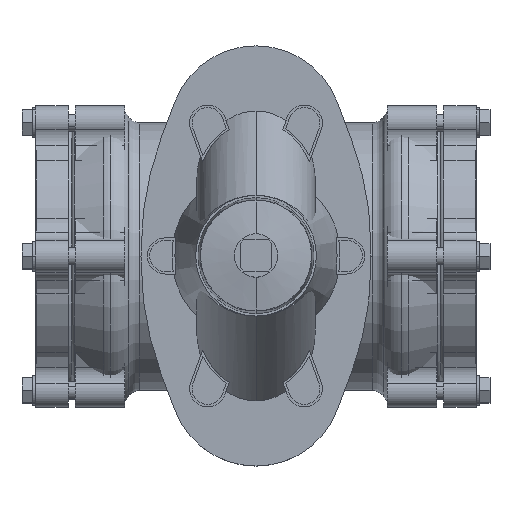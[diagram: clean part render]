
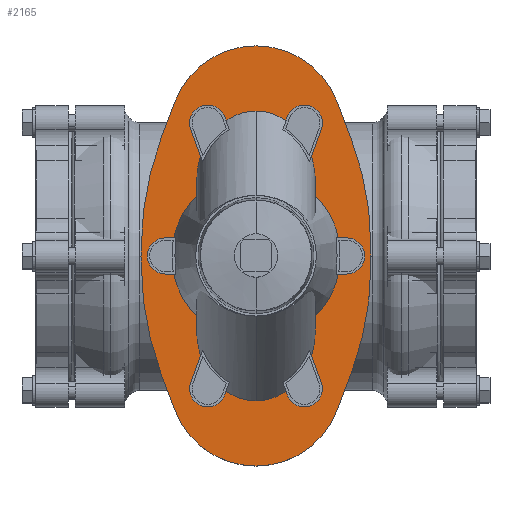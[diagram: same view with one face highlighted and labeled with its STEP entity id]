
A CAD part, top view. The second image highlights one B-rep face of the part: STEP entity #2165.
In plain terms, the highlighted planar face has unit normal (0, 0, 1).
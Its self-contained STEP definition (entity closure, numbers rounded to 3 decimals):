
#2165=ADVANCED_FACE('',(#4573),#4574,.T.);
#4573=FACE_OUTER_BOUND('',#8044,.T.);
#4574=PLANE('',#8045);
#8044=EDGE_LOOP('',(#11193,#11194,#11195,#11196,#11197,#11198,#11199,#11200,#11201,#11202,#11203,#11204,#11205,#11206));
#8045=AXIS2_PLACEMENT_3D('',#11207,#11208,#11209);
#11193=ORIENTED_EDGE('',*,*,#18563,.F.);
#11194=ORIENTED_EDGE('',*,*,#18564,.F.);
#11195=ORIENTED_EDGE('',*,*,#18565,.F.);
#11196=ORIENTED_EDGE('',*,*,#18566,.F.);
#11197=ORIENTED_EDGE('',*,*,#18567,.F.);
#11198=ORIENTED_EDGE('',*,*,#18568,.F.);
#11199=ORIENTED_EDGE('',*,*,#18569,.F.);
#11200=ORIENTED_EDGE('',*,*,#18570,.F.);
#11201=ORIENTED_EDGE('',*,*,#18571,.F.);
#11202=ORIENTED_EDGE('',*,*,#18572,.F.);
#11203=ORIENTED_EDGE('',*,*,#18573,.F.);
#11204=ORIENTED_EDGE('',*,*,#18574,.F.);
#11205=ORIENTED_EDGE('',*,*,#18575,.F.);
#11206=ORIENTED_EDGE('',*,*,#18576,.F.);
#11207=CARTESIAN_POINT('',(52.551,0.001,281.0));
#11208=DIRECTION('',(0.0,0.0,1.0));
#11209=DIRECTION('',(1.0,0.0,0.0));
#18563=EDGE_CURVE('',#21750,#21751,#21752,.T.);
#18564=EDGE_CURVE('',#21753,#21750,#21754,.T.);
#18565=EDGE_CURVE('',#21755,#21753,#21756,.T.);
#18566=EDGE_CURVE('',#21757,#21755,#21758,.T.);
#18567=EDGE_CURVE('',#21759,#21757,#21760,.T.);
#18568=EDGE_CURVE('',#21761,#21759,#21762,.T.);
#18569=EDGE_CURVE('',#21763,#21761,#21764,.T.);
#18570=EDGE_CURVE('',#21765,#21763,#21766,.T.);
#18571=EDGE_CURVE('',#21767,#21765,#21768,.T.);
#18572=EDGE_CURVE('',#21769,#21767,#21770,.T.);
#18573=EDGE_CURVE('',#21771,#21769,#21772,.T.);
#18574=EDGE_CURVE('',#21773,#21771,#21774,.T.);
#18575=EDGE_CURVE('',#21775,#21773,#21776,.T.);
#18576=EDGE_CURVE('',#21751,#21775,#21777,.T.);
#21750=VERTEX_POINT('',#26156);
#21751=VERTEX_POINT('',#26157);
#21752=LINE('',#26158,#26159);
#21753=VERTEX_POINT('',#26160);
#21754=CIRCLE('',#26161,71.99);
#21755=VERTEX_POINT('',#26162);
#21756=LINE('',#26163,#26164);
#21757=VERTEX_POINT('',#26165);
#21758=CIRCLE('',#26166,250.48);
#21759=VERTEX_POINT('',#26167);
#21760=CIRCLE('',#26168,250.48);
#21761=VERTEX_POINT('',#26169);
#21762=CIRCLE('',#26170,250.48);
#21763=VERTEX_POINT('',#26171);
#21764=CIRCLE('',#26172,250.48);
#21765=VERTEX_POINT('',#26173);
#21766=LINE('',#26174,#26175);
#21767=VERTEX_POINT('',#26176);
#21768=CIRCLE('',#26177,71.99);
#21769=VERTEX_POINT('',#26178);
#21770=LINE('',#26179,#26180);
#21771=VERTEX_POINT('',#26181);
#21772=CIRCLE('',#26182,261.98);
#21773=VERTEX_POINT('',#26183);
#21774=CIRCLE('',#26184,261.98);
#21775=VERTEX_POINT('',#26185);
#21776=CIRCLE('',#26186,261.98);
#21777=CIRCLE('',#26187,261.98);
#26156=CARTESIAN_POINT('',(-14.854,-127.417,281.0));
#26157=CARTESIAN_POINT('',(-25.708,-98.634,281.0));
#26158=CARTESIAN_POINT('',(-25.708,-98.634,281.0));
#26159=VECTOR('',#31329,1.0);
#26160=CARTESIAN_POINT('',(119.873,-127.395,281.0));
#26161=AXIS2_PLACEMENT_3D('',#31330,#31331,#31332);
#26162=CARTESIAN_POINT('',(131.541,-96.424,281.0));
#26163=CARTESIAN_POINT('',(119.873,-127.395,281.0));
#26164=VECTOR('',#31333,1.0);
#26165=CARTESIAN_POINT('',(147.624,-8.117,281.0));
#26166=AXIS2_PLACEMENT_3D('',#31334,#31335,#31336);
#26167=CARTESIAN_POINT('',(147.497,-0.153,281.0));
#26168=AXIS2_PLACEMENT_3D('',#31337,#31338,#31339);
#26169=CARTESIAN_POINT('',(147.634,8.121,281.0));
#26170=AXIS2_PLACEMENT_3D('',#31340,#31341,#31342);
#26171=CARTESIAN_POINT('',(131.522,96.504,281.0));
#26172=AXIS2_PLACEMENT_3D('',#31343,#31344,#31345);
#26173=CARTESIAN_POINT('',(119.865,127.417,281.0));
#26174=CARTESIAN_POINT('',(131.522,96.504,281.0));
#26175=VECTOR('',#31346,1.);
#26176=CARTESIAN_POINT('',(-14.854,127.417,281.0));
#26177=AXIS2_PLACEMENT_3D('',#31347,#31348,#31349);
#26178=CARTESIAN_POINT('',(-25.708,98.634,281.0));
#26179=CARTESIAN_POINT('',(-14.854,127.417,281.0));
#26180=VECTOR('',#31350,1.0);
#26181=CARTESIAN_POINT('',(-42.56,6.191,281.0));
#26182=AXIS2_PLACEMENT_3D('',#31351,#31352,#31353);
#26183=CARTESIAN_POINT('',(-42.487,0.,281.0));
#26184=AXIS2_PLACEMENT_3D('',#31354,#31355,#31356);
#26185=CARTESIAN_POINT('',(-42.56,-6.191,281.0));
#26186=AXIS2_PLACEMENT_3D('',#31357,#31358,#31359);
#26187=AXIS2_PLACEMENT_3D('',#31360,#31361,#31362);
#31329=DIRECTION('',(-0.353,0.936,0.0));
#31330=CARTESIAN_POINT('',(52.505,-102.014,281.0));
#31331=DIRECTION('',(0.0,0.0,-1.0));
#31332=DIRECTION('',(1.0,0.0,0.0));
#31333=DIRECTION('',(-0.353,-0.936,-0.0));
#31334=CARTESIAN_POINT('',(-102.856,-8.117,281.0));
#31335=DIRECTION('',(0.0,0.0,-1.0));
#31336=DIRECTION('',(1.0,0.0,0.0));
#31337=CARTESIAN_POINT('',(-102.856,-8.117,281.0));
#31338=DIRECTION('',(0.0,0.0,-1.0));
#31339=DIRECTION('',(1.0,0.0,0.0));
#31340=CARTESIAN_POINT('',(-102.846,8.121,281.0));
#31341=DIRECTION('',(0.0,0.0,-1.0));
#31342=DIRECTION('',(1.0,0.0,0.0));
#31343=CARTESIAN_POINT('',(-102.846,8.121,281.0));
#31344=DIRECTION('',(0.0,0.0,-1.0));
#31345=DIRECTION('',(1.0,0.0,0.0));
#31346=DIRECTION('',(0.353,-0.936,0.0));
#31347=CARTESIAN_POINT('',(52.505,102.014,281.0));
#31348=DIRECTION('',(0.0,0.0,-1.0));
#31349=DIRECTION('',(1.0,0.0,0.0));
#31350=DIRECTION('',(0.353,0.936,0.0));
#31351=CARTESIAN_POINT('',(219.42,6.191,281.0));
#31352=DIRECTION('',(0.0,0.0,-1.0));
#31353=DIRECTION('',(1.0,0.0,0.0));
#31354=CARTESIAN_POINT('',(219.42,6.191,281.0));
#31355=DIRECTION('',(0.0,0.0,-1.0));
#31356=DIRECTION('',(1.0,0.0,0.0));
#31357=CARTESIAN_POINT('',(219.42,-6.191,281.0));
#31358=DIRECTION('',(0.0,0.0,-1.0));
#31359=DIRECTION('',(1.0,0.0,0.0));
#31360=CARTESIAN_POINT('',(219.42,-6.191,281.0));
#31361=DIRECTION('',(0.0,0.0,-1.0));
#31362=DIRECTION('',(1.0,0.0,0.0));
